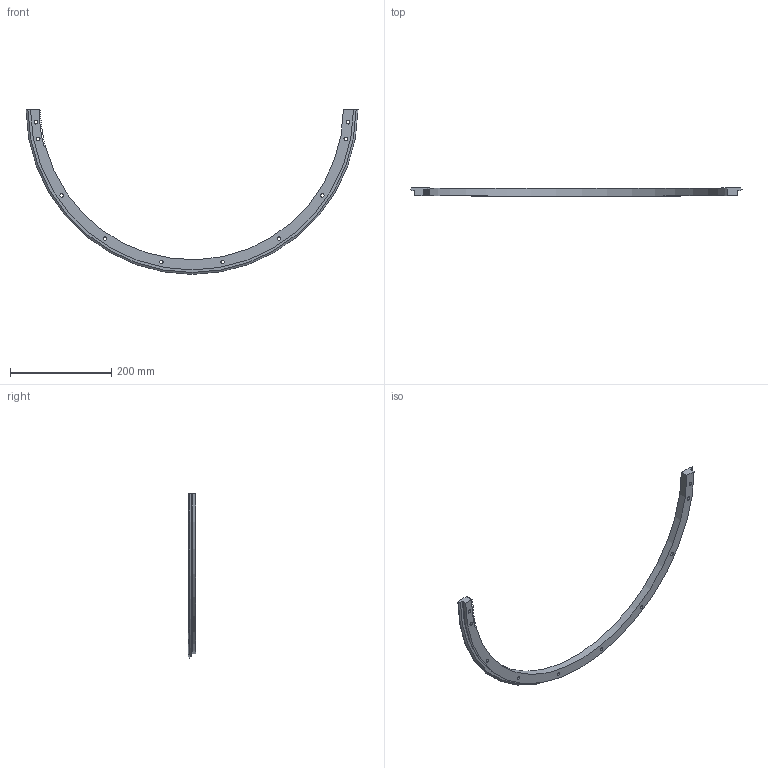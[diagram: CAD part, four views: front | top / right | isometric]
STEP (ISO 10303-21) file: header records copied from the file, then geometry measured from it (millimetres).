
FILE_DESCRIPTION( ( 'STEP AP203' ), '1' );
FILE_NAME( 'p:/temp/worker_32/temp/exporttempdir_3252_1115_XHtvK/format_0/TREM 655 R180 Q .stp', '2021-09-17T07:52:59', ( 'License CC BY-ND 4.0' ), ( 'CADENAS' ), ' ', 'PARTsolutions', ' ' );
FILE_SCHEMA( ( 'CONFIG_CONTROL_DESIGN' ) );
Length unit declared in the file: millimetre
Products named in the file (1): _TREM 655 R180 Q 
Bounding box: 655.09 x 15.5 x 325.06 mm (x, y, z)
Volume: 329738.4 mm3; surface area: 88871 mm2
Topology: 1 solids, 1 shells, 119 faces, 321 edges, 214 vertices
Faces by surface type: cylinder 61, plane 55, cone 2, torus 1
Full cylindrical faces by diameter (mm): 6.8 x10, 11 x10
Entity records: 3787 total; most frequent: CARTESIAN_POINT 666, DIRECTION 661, ORIENTED_EDGE 602, EDGE_CURVE 301, AXIS2_PLACEMENT_3D 246, VERTEX_POINT 215, EDGE_LOOP 169, LINE 169
